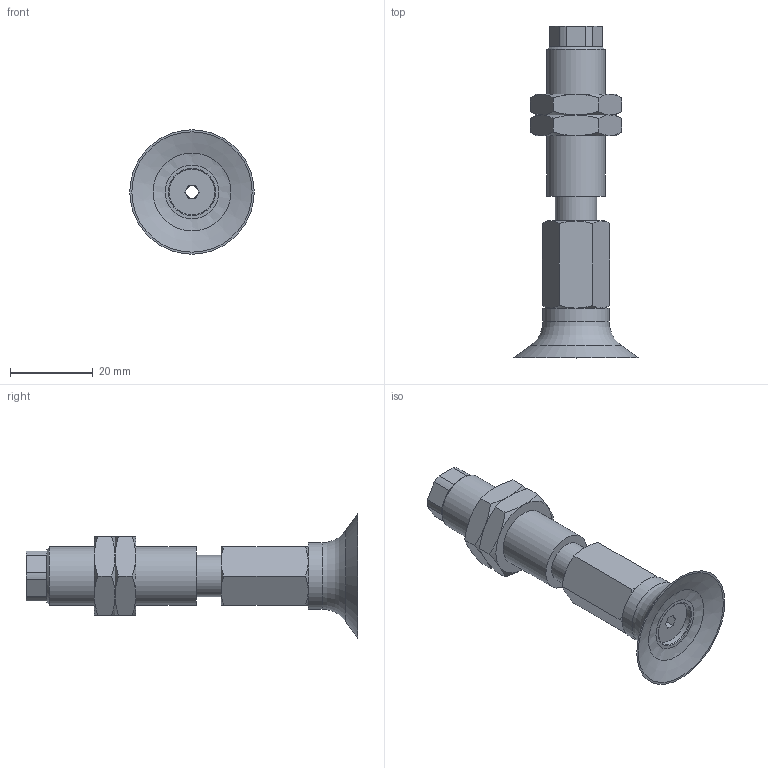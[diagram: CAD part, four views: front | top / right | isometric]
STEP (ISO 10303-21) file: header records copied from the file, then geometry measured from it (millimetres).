
FILE_DESCRIPTION(('STEP AP203'),'1');
FILE_NAME('.stp','2025-08-27T05:58:58',(' '),(' '),'Spatial InterOp 3D',' ',' ');
FILE_SCHEMA(('CONFIG_CONTROL_DESIGN'));
Length unit declared in the file: millimetre
Products named in the file (7): BNABPFTS-30-6-※; ADAPTER; NAPFTS-30-6-MBODY; TN-PF-30-M6-NAPF; Nut-30-6-s; NAPFTS-30-6-FBODY; BPFG-30-※
Assembly tree (7 placements, depth 2):
  BNABPFTS-30-6-※
    ADAPTER
    NAPFTS-30-6-MBODY
    TN-PF-30-M6-NAPF
    Nut-30-6-s  x2
    NAPFTS-30-6-FBODY
    BPFG-30-※
Bounding box: 30 x 80 x 30 mm (x, y, z)
Volume: 14068.9 mm3; surface area: 11059 mm2
Topology: 7 solids, 7 shells, 129 faces, 272 edges, 163 vertices
Faces by surface type: plane 56, cone 46, cylinder 21, torus 5, bspline 1
Full cylindrical faces by diameter (mm): 3 x3, 4.134 x1, 4.917 x1, 6 x2, 10 x2, 11 x2, 12.917 x2, 14 x1, 16 x1
Entity records: 3281 total; most frequent: CARTESIAN_POINT 801, DIRECTION 454, ORIENTED_EDGE 384, AXIS2_PLACEMENT_3D 197, EDGE_CURVE 192, EDGE_LOOP 152, VERTEX_POINT 132, FACE_OUTER_BOUND 126
